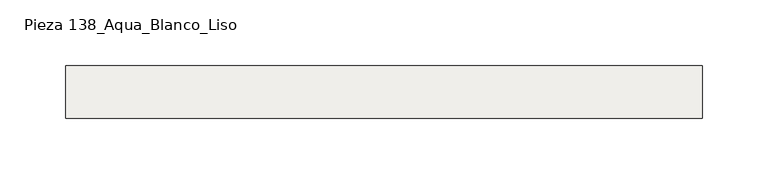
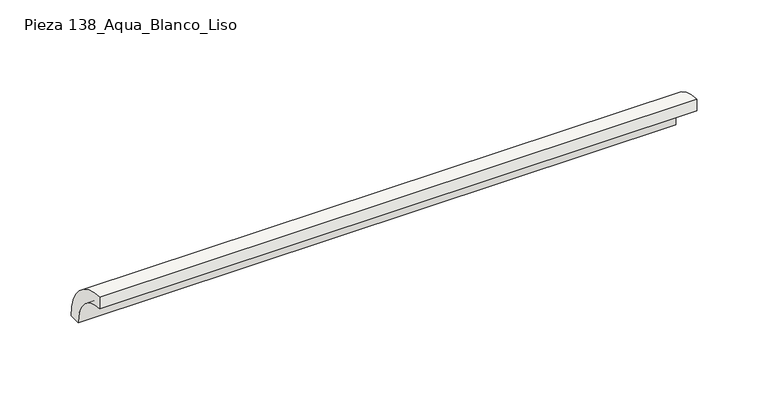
"""IFC4 building model written with IfcOpenShell, lengths in millimetres: slab geometry, ROSA GRES_138 : Pieza 138_Aqua_Blanco_Liso."""

from ifc_helpers import new_model, si_unit, point, frame, frame_2d, origin, origin_2d, place, context, project, spatial, polyline, circle_curve, trimmed, segment, composite_curve, outline, extrude, source, transform, mapped, element, save


def pieza_138_aqua_blanco_liso_60b84e58(model_context):
    return source(origin(), model_context, "Body", "SweptSolid", [
        extrude(outline(composite_curve([segment(trimmed(circle_curve(origin_2d(), 40.0), [point((0.0, 40.0))], [point((40.0, 0.0))], False, "CARTESIAN"), True, "CONTINUOUS"), segment(polyline([(40.0, 0.0), (30.0265886, 0.0)]), True, "CONTINUOUS"), segment(trimmed(circle_curve(frame_2d((0.0044453, 0.0044453)), 30.0221435), [point((30.0265886, 0.0))], [point((0.0, 30.0265886))], True, "CARTESIAN"), True, "CONTINUOUS"), segment(polyline([(0.0, 30.0265886), (0.0, 40.0)]), True, "CONTINUOUS")], self_intersect=False)), frame((0.0, 0.0, 0.0), z_axis=(1.0, 0.0, 0.0), x_axis=(0.0, 1.0, 0.0)), (0.0, 0.0, 1.0), 485.0),
    ])


if __name__ == "__main__":
    model = new_model("IFC4")
    model_context = context("Model", 3, world=origin())
    ifc_project = project(units=[si_unit("LENGTHUNIT", "METRE", prefix="MILLI")], contexts=[model_context])
    site = spatial("IfcSite", under=ifc_project)
    building = spatial("IfcBuilding", under=site)
    placement = place(None, origin())
    pieza_138_aqua_blanco_liso_shape = pieza_138_aqua_blanco_liso_60b84e58(model_context)
    element("IfcSlab", 1, ObjectType="ROSA GRES_138 : Pieza 138_Aqua_Blanco_Liso", at=placement, inside=building, context=model_context, shape_type="MappedRepresentation", body=[
        mapped(pieza_138_aqua_blanco_liso_shape, transform((0.0, 0.0, 0.0), x_axis=(1.0, 0.0, 0.0), y_axis=(0.0, 1.0, 0.0), z_axis=(0.0, 0.0, 1.0))),
    ])
    save(model, "model.ifc")
